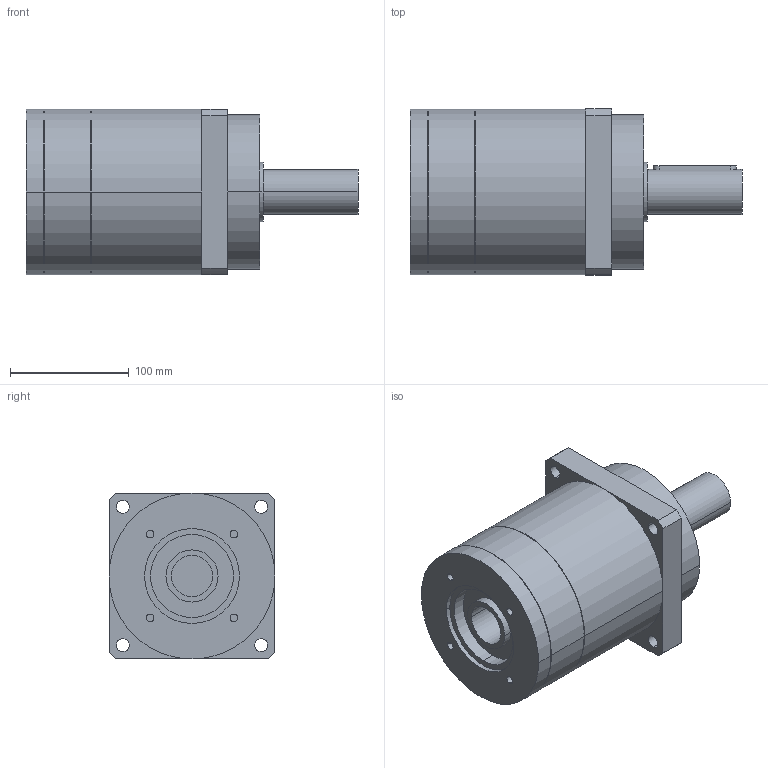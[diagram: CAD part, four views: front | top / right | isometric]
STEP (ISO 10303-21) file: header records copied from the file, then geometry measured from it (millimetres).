
FILE_DESCRIPTION(('CoCreate Modeling STEP Export'),'2;1');
FILE_NAME('GPR150_ig-3-4-5-7_38_B5_35_P02.stp','2014-08-19T16:43:09',(''),(''),'CoCreate Modeling STEP processor for AP214 (Solid Model)','CoCreate Modeling 16.00C 25-Feb-2009 (C) Parametric Technology GmbH','');
FILE_SCHEMA(('AUTOMOTIVE_DESIGN { 1 0 10303 214 1 1 1 1 }'));
Length unit declared in the file: millimetre
Products named in the file (2): GPR150_ig-3-4-5-7_38_B5_35_P02
Assembly tree (1 placements, depth 2):
  GPR150_ig-3-4-5-7_38_B5_35_P02
    GPR150_ig-3-4-5-7_38_B5_35_P02
Bounding box: 280 x 140 x 140 mm (x, y, z)
Volume: 3027876.1 mm3; surface area: 155823.8 mm2
Topology: 1 solids, 1 shells, 88 faces, 223 edges, 153 vertices
Faces by surface type: cylinder 52, plane 30, cone 6
Entity records: 2322 total; most frequent: ORIENTED_EDGE 442, CARTESIAN_POINT 425, DIRECTION 320, EDGE_CURVE 221, VERTEX_POINT 153, AXIS2_PLACEMENT_3D 120, EDGE_LOOP 114, FACE_OUTER_BOUND 88
